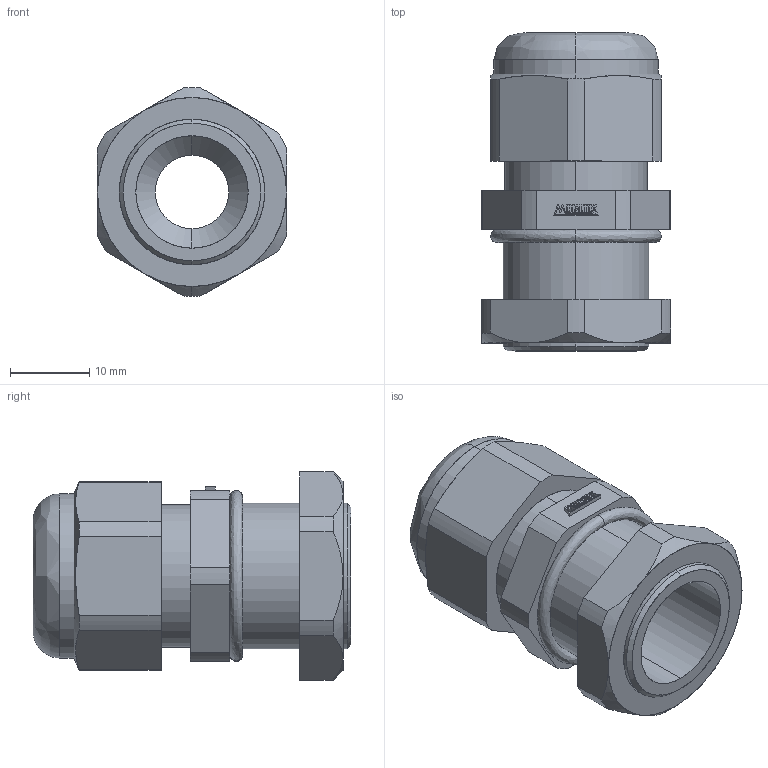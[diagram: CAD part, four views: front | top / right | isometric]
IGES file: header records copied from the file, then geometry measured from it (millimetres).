
Start section: SolidWorks IGES file using analytic representation for surfaces
Global section: file name: D:\X - Arquivos\PROEX\Empresas\P11 - METALTEX\01 - Produtos\IGES\Terceira remessa\Etapa 2\CH-PG11L.IGS; native system: SolidWorks 2012; preprocessor: SolidWorks 2012; author: Usuario; date: 180207.123908; units: millimetre
Bounding box: 23.9 x 40.2 x 26.39 mm (x, y, z)
Surface area: 5651.3 mm2 (no closed solid volume)
Topology: 0 solids, 0 shells, 174 faces, 1313 edges, 1313 vertices
Faces by surface type: bspline 125, revolution 49
